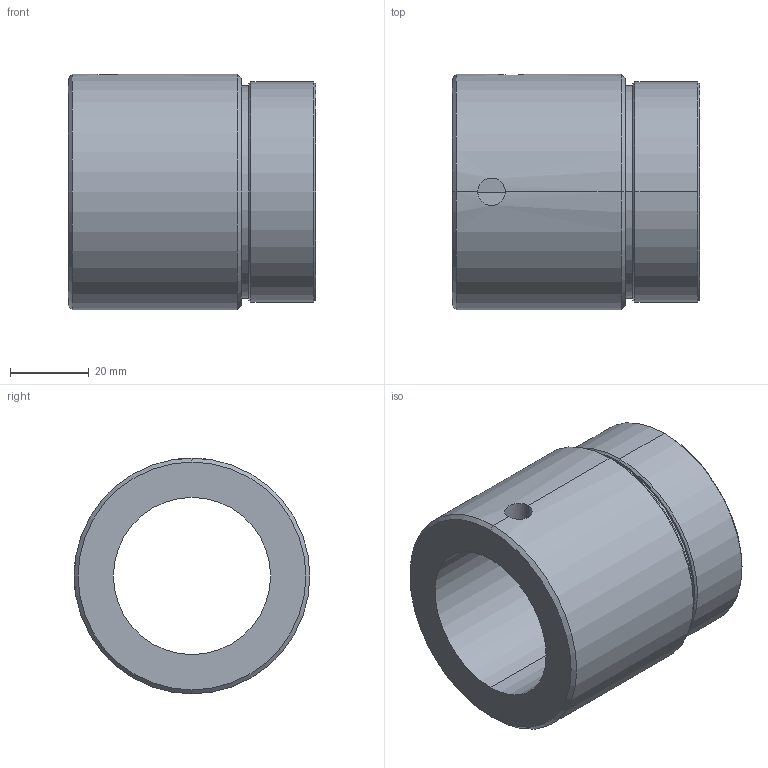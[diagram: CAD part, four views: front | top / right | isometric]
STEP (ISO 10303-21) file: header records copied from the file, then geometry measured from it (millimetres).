
FILE_DESCRIPTION (( 'STEP AP214' ), '1' );
FILE_NAME ('KGM-E-4005-RH.STEP', '2021-03-19T01:47:15', ( 'user' ), ( 'datathink' ), 'SwSTEP 2.0', 'SolidWorks 2013', '' );
FILE_SCHEMA (( 'AUTOMOTIVE_DESIGN' ));
Length unit declared in the file: millimetre
Products named in the file (1): KGM-E-4005-RH
Bounding box: 63 x 60 x 60 mm (x, y, z)
Volume: 90926.8 mm3; surface area: 22916.5 mm2
Topology: 1 solids, 1 shells, 25 faces, 54 edges, 32 vertices
Faces by surface type: cylinder 12, cone 8, plane 5
Entity records: 906 total; most frequent: CARTESIAN_POINT 310, DIRECTION 126, ORIENTED_EDGE 108, EDGE_CURVE 54, AXIS2_PLACEMENT_3D 52, VERTEX_POINT 32, EDGE_LOOP 30, CIRCLE 26
